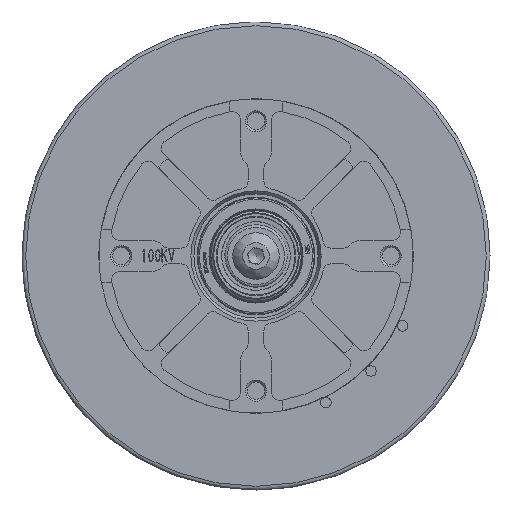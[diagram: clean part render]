
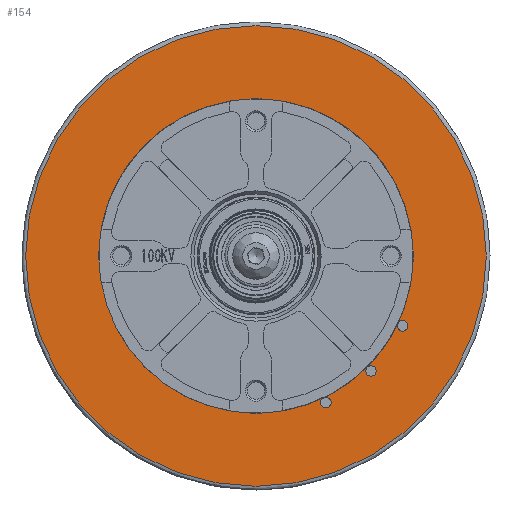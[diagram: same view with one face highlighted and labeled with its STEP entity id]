
A CAD part, front view. The second image highlights one B-rep face of the part: STEP entity #154.
In plain terms, the highlighted planar face has unit normal (0, -1, 0).
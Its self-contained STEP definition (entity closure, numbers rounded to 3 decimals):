
#154 = ADVANCED_FACE ( 'NONE', ( #24981, #12039 ), #4801, .T. ) ;
#1965 = AXIS2_PLACEMENT_3D ( 'NONE', #40522, #17749, #21379 ) ;
#2307 = DIRECTION ( 'NONE',  ( 0., 0., -1. ) ) ;
#2724 = DIRECTION ( 'NONE',  ( 0., 1., 0. ) ) ;
#3496 = DIRECTION ( 'NONE',  ( 0., 1., 0. ) ) ;
#4801 = PLANE ( 'NONE',  #1965 ) ;
#6922 = CARTESIAN_POINT ( 'NONE',  ( 0., -24.3, 43.6 ) ) ;
#8273 = AXIS2_PLACEMENT_3D ( 'NONE', #26037, #3496, #9920 ) ;
#8969 = EDGE_CURVE ( 'NONE', #11741, #11741, #37894, .T. ) ;
#9920 = DIRECTION ( 'NONE',  ( 0., 0., 1. ) ) ;
#10334 = VERTEX_POINT ( 'NONE', #6922 ) ;
#11741 = VERTEX_POINT ( 'NONE', #18489 ) ;
#12039 = FACE_BOUND ( 'NONE', #40584, .T. ) ;
#17749 = DIRECTION ( 'NONE',  ( 0., -1., 0. ) ) ;
#18489 = CARTESIAN_POINT ( 'NONE',  ( 0., -24.3, -29.75 ) ) ;
#21018 = EDGE_LOOP ( 'NONE', ( #40886 ) ) ;
#21379 = DIRECTION ( 'NONE',  ( 0., 0., -1. ) ) ;
#24961 = AXIS2_PLACEMENT_3D ( 'NONE', #34189, #2724, #2307 ) ;
#24981 = FACE_OUTER_BOUND ( 'NONE', #21018, .T. ) ;
#26037 = CARTESIAN_POINT ( 'NONE',  ( 0., -24.3, 0. ) ) ;
#27970 = ORIENTED_EDGE ( 'NONE', *, *, #8969, .T. ) ;
#34189 = CARTESIAN_POINT ( 'NONE',  ( 0., -24.3, 0. ) ) ;
#34688 = EDGE_CURVE ( 'NONE', #10334, #10334, #40942, .T. ) ;
#37894 = CIRCLE ( 'NONE', #24961, 29.75 ) ;
#40522 = CARTESIAN_POINT ( 'NONE',  ( 0., -24.3, 0. ) ) ;
#40584 = EDGE_LOOP ( 'NONE', ( #27970 ) ) ;
#40886 = ORIENTED_EDGE ( 'NONE', *, *, #34688, .F. ) ;
#40942 = CIRCLE ( 'NONE', #8273, 43.6 ) ;
